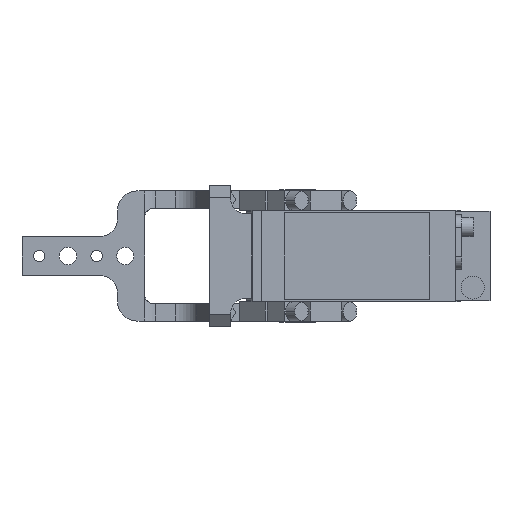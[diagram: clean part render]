
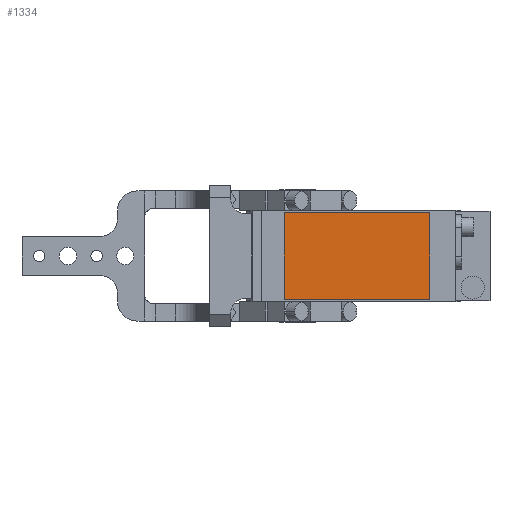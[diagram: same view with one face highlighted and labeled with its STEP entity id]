
A CAD part, front view. The second image highlights one B-rep face of the part: STEP entity #1334.
In plain terms, the highlighted planar face has unit normal (0, -1, 0).
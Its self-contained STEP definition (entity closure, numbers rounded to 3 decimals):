
#29 = ORIENTED_EDGE ( 'NONE', *, *, #14005, .T. ) ;
#1334 = ADVANCED_FACE ( 'NONE', ( #2594 ), #7238, .T. ) ;
#1475 = VERTEX_POINT ( 'NONE', #7953 ) ;
#2594 = FACE_OUTER_BOUND ( 'NONE', #7500, .T. ) ;
#2835 = DIRECTION ( 'NONE',  ( 1., 0., 0. ) ) ;
#3887 = DIRECTION ( 'NONE',  ( 0., 0., 1. ) ) ;
#4196 = LINE ( 'NONE', #8687, #11450 ) ;
#4310 = VERTEX_POINT ( 'NONE', #8959 ) ;
#4465 = VECTOR ( 'NONE', #6851, 1000. ) ;
#5064 = EDGE_CURVE ( 'NONE', #5072, #7837, #9580, .T. ) ;
#5072 = VERTEX_POINT ( 'NONE', #8789 ) ;
#5396 = ORIENTED_EDGE ( 'NONE', *, *, #10825, .T. ) ;
#5703 = CARTESIAN_POINT ( 'NONE',  ( 0., -280.5, 0. ) ) ;
#6211 = VECTOR ( 'NONE', #8509, 1000. ) ;
#6780 = LINE ( 'NONE', #10420, #4465 ) ;
#6851 = DIRECTION ( 'NONE',  ( -1., 0., 0. ) ) ;
#7238 = PLANE ( 'NONE',  #9148 ) ;
#7313 = DIRECTION ( 'NONE',  ( 0., 0., -1. ) ) ;
#7500 = EDGE_LOOP ( 'NONE', ( #10110, #5396, #9214, #29 ) ) ;
#7837 = VERTEX_POINT ( 'NONE', #9016 ) ;
#7953 = CARTESIAN_POINT ( 'NONE',  ( 69., -280.5, -22.5 ) ) ;
#8058 = VECTOR ( 'NONE', #3887, 1000. ) ;
#8509 = DIRECTION ( 'NONE',  ( 0., 0., -1. ) ) ;
#8687 = CARTESIAN_POINT ( 'NONE',  ( -7., -280.5, -22.5 ) ) ;
#8789 = CARTESIAN_POINT ( 'NONE',  ( -7., -280.5, 22.5 ) ) ;
#8959 = CARTESIAN_POINT ( 'NONE',  ( 69., -280.5, 22.5 ) ) ;
#9016 = CARTESIAN_POINT ( 'NONE',  ( -7., -280.5, -22.5 ) ) ;
#9148 = AXIS2_PLACEMENT_3D ( 'NONE', #5703, #10088, #7313 ) ;
#9214 = ORIENTED_EDGE ( 'NONE', *, *, #10241, .T. ) ;
#9580 = LINE ( 'NONE', #14199, #6211 ) ;
#10088 = DIRECTION ( 'NONE',  ( 0., -1., 0. ) ) ;
#10110 = ORIENTED_EDGE ( 'NONE', *, *, #5064, .T. ) ;
#10241 = EDGE_CURVE ( 'NONE', #1475, #4310, #14286, .T. ) ;
#10420 = CARTESIAN_POINT ( 'NONE',  ( -7., -280.5, 22.5 ) ) ;
#10825 = EDGE_CURVE ( 'NONE', #7837, #1475, #4196, .T. ) ;
#10933 = CARTESIAN_POINT ( 'NONE',  ( 69., -280.5, 22.5 ) ) ;
#11450 = VECTOR ( 'NONE', #2835, 1000. ) ;
#14005 = EDGE_CURVE ( 'NONE', #4310, #5072, #6780, .T. ) ;
#14199 = CARTESIAN_POINT ( 'NONE',  ( -7., -280.5, 22.5 ) ) ;
#14286 = LINE ( 'NONE', #10933, #8058 ) ;
